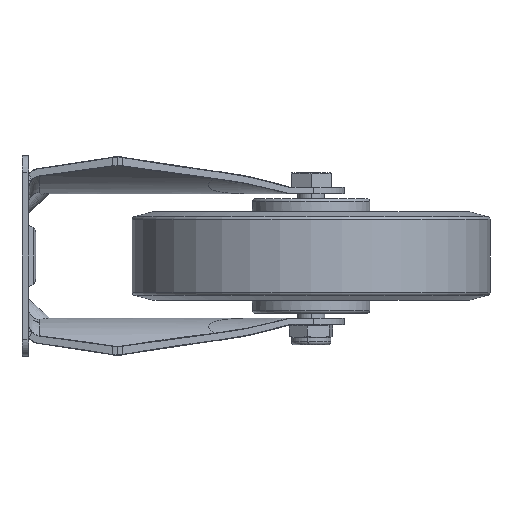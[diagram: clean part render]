
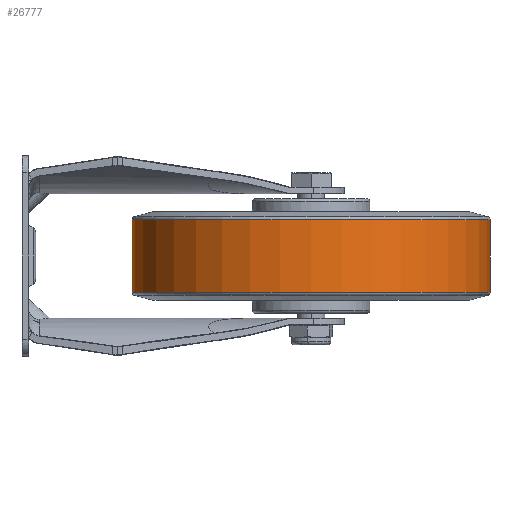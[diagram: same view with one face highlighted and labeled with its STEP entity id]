
A CAD part, left-side view. The second image highlights one B-rep face of the part: STEP entity #26777.
In plain terms, the highlighted cylindrical face has radius 62.5 mm (diameter 125 mm), a partial arc.
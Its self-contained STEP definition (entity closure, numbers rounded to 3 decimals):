
#364 = CARTESIAN_POINT ( 'NONE',  ( -15.5, 0., 0. ) ) ;
#2178 = CARTESIAN_POINT ( 'NONE',  ( -15.5, 62.5, 0. ) ) ;
#2964 = ORIENTED_EDGE ( 'NONE', *, *, #23250, .T. ) ;
#3573 = AXIS2_PLACEMENT_3D ( 'NONE', #13110, #17403, #17941 ) ;
#4587 = ORIENTED_EDGE ( 'NONE', *, *, #5179, .T. ) ;
#5179 = EDGE_CURVE ( 'NONE', #21459, #27015, #8603, .T. ) ;
#5205 = CARTESIAN_POINT ( 'NONE',  ( -15.5, -62.5, 0. ) ) ;
#5253 = ORIENTED_EDGE ( 'NONE', *, *, #24070, .F. ) ;
#6584 = DIRECTION ( 'NONE',  ( 0., 1., 0. ) ) ;
#6985 = CYLINDRICAL_SURFACE ( 'NONE', #24727, 62.5 ) ;
#7733 = DIRECTION ( 'NONE',  ( -1., 0., 0. ) ) ;
#7734 = VECTOR ( 'NONE', #18286, 1000. ) ;
#8603 = CIRCLE ( 'NONE', #22681, 62.5 ) ;
#9420 = CARTESIAN_POINT ( 'NONE',  ( 12.732, -62.5, 0. ) ) ;
#13019 = DIRECTION ( 'NONE',  ( 1., 0., 0. ) ) ;
#13110 = CARTESIAN_POINT ( 'NONE',  ( -12.732, 0., 0. ) ) ;
#14269 = DIRECTION ( 'NONE',  ( 1., 0., 0. ) ) ;
#15886 = CARTESIAN_POINT ( 'NONE',  ( -12.732, 62.5, 0. ) ) ;
#16138 = DIRECTION ( 'NONE',  ( 0., -1., 0. ) ) ;
#16481 = EDGE_LOOP ( 'NONE', ( #2964, #21916, #4587, #5253 ) ) ;
#16623 = VERTEX_POINT ( 'NONE', #15886 ) ;
#16768 = LINE ( 'NONE', #2178, #23842 ) ;
#17403 = DIRECTION ( 'NONE',  ( 1., 0., 0. ) ) ;
#17941 = DIRECTION ( 'NONE',  ( 0., -1., 0. ) ) ;
#17958 = EDGE_CURVE ( 'NONE', #24849, #21459, #18009, .T. ) ;
#18009 = LINE ( 'NONE', #5205, #7734 ) ;
#18286 = DIRECTION ( 'NONE',  ( 1., 0., 0. ) ) ;
#19529 = FACE_OUTER_BOUND ( 'NONE', #16481, .T. ) ;
#20339 = CARTESIAN_POINT ( 'NONE',  ( 12.732, 62.5, 0. ) ) ;
#21459 = VERTEX_POINT ( 'NONE', #9420 ) ;
#21916 = ORIENTED_EDGE ( 'NONE', *, *, #17958, .T. ) ;
#22342 = CARTESIAN_POINT ( 'NONE',  ( 12.732, 0., 0. ) ) ;
#22681 = AXIS2_PLACEMENT_3D ( 'NONE', #22342, #7733, #16138 ) ;
#23250 = EDGE_CURVE ( 'NONE', #16623, #24849, #26007, .T. ) ;
#23842 = VECTOR ( 'NONE', #14269, 1000. ) ;
#24070 = EDGE_CURVE ( 'NONE', #16623, #27015, #16768, .T. ) ;
#24727 = AXIS2_PLACEMENT_3D ( 'NONE', #364, #13019, #6584 ) ;
#24849 = VERTEX_POINT ( 'NONE', #25625 ) ;
#25625 = CARTESIAN_POINT ( 'NONE',  ( -12.732, -62.5, 0. ) ) ;
#26007 = CIRCLE ( 'NONE', #3573, 62.5 ) ;
#26777 = ADVANCED_FACE ( 'NONE', ( #19529 ), #6985, .T. ) ;
#27015 = VERTEX_POINT ( 'NONE', #20339 ) ;
